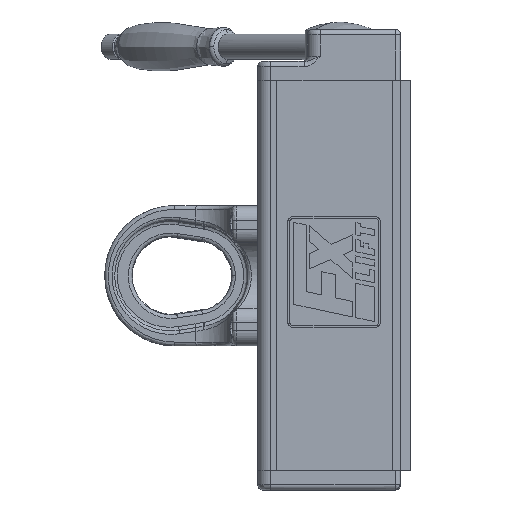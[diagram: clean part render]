
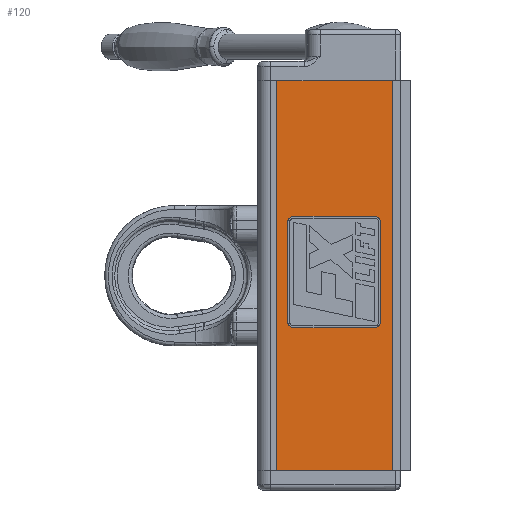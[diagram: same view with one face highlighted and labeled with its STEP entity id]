
A CAD part, left-side view. The second image highlights one B-rep face of the part: STEP entity #120.
In plain terms, the highlighted planar face has unit normal (-1, 0, 0).
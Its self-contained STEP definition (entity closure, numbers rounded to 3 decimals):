
#120=ADVANCED_FACE('NONE',(#973,#974),#975,.F.);
#973=FACE_OUTER_BOUND('',#3125,.T.);
#974=FACE_BOUND('',#3126,.T.);
#975=PLANE('',#3127);
#3125=EDGE_LOOP('',(#13335,#13336,#13337,#13338));
#3126=EDGE_LOOP('',(#13339,#13340,#13341,#13342,#13343,#13344,#13345,#13346));
#3127=AXIS2_PLACEMENT_3D('',#13347,#13348,#13349);
#13335=ORIENTED_EDGE('',*,*,#18979,.T.);
#13336=ORIENTED_EDGE('',*,*,#18980,.F.);
#13337=ORIENTED_EDGE('',*,*,#18981,.F.);
#13338=ORIENTED_EDGE('',*,*,#18982,.T.);
#13339=ORIENTED_EDGE('',*,*,#18983,.T.);
#13340=ORIENTED_EDGE('',*,*,#18984,.T.);
#13341=ORIENTED_EDGE('',*,*,#18985,.T.);
#13342=ORIENTED_EDGE('',*,*,#18986,.T.);
#13343=ORIENTED_EDGE('',*,*,#18987,.T.);
#13344=ORIENTED_EDGE('',*,*,#18988,.T.);
#13345=ORIENTED_EDGE('',*,*,#18989,.T.);
#13346=ORIENTED_EDGE('',*,*,#18990,.T.);
#13347=CARTESIAN_POINT('',(-74.5,0.,153.0));
#13348=DIRECTION('',(1.0,0.,0.));
#13349=DIRECTION('',(0.0,1.0,0.));
#18979=EDGE_CURVE('NONE',#21266,#21267,#21268,.T.);
#18980=EDGE_CURVE('NONE',#21269,#21267,#21270,.T.);
#18981=EDGE_CURVE('NONE',#21271,#21269,#21272,.T.);
#18982=EDGE_CURVE('NONE',#21271,#21266,#21273,.T.);
#18983=EDGE_CURVE('NONE',#21274,#21275,#21276,.T.);
#18984=EDGE_CURVE('NONE',#21275,#21277,#21278,.T.);
#18985=EDGE_CURVE('NONE',#21277,#21279,#21280,.T.);
#18986=EDGE_CURVE('NONE',#21279,#21281,#21282,.T.);
#18987=EDGE_CURVE('NONE',#21281,#21283,#21284,.T.);
#18988=EDGE_CURVE('NONE',#21283,#21285,#21286,.T.);
#18989=EDGE_CURVE('NONE',#21285,#21287,#21288,.T.);
#18990=EDGE_CURVE('NONE',#21287,#21274,#21289,.T.);
#21266=VERTEX_POINT('NONE',#26115);
#21267=VERTEX_POINT('NONE',#26116);
#21268=LINE('',#26117,#26118);
#21269=VERTEX_POINT('NONE',#26119);
#21270=LINE('',#26120,#26121);
#21271=VERTEX_POINT('NONE',#26122);
#21272=LINE('',#26123,#26124);
#21273=LINE('',#26125,#26126);
#21274=VERTEX_POINT('NONE',#26127);
#21275=VERTEX_POINT('NONE',#26128);
#21276=B_SPLINE_CURVE_WITH_KNOTS('',3,(#26129,#26130,#26131,#26132),.UNSPECIFIED.,.F.,.F.,(4,4),(0.778,1.0),.UNSPECIFIED.);
#21277=VERTEX_POINT('NONE',#26133);
#21278=LINE('',#26134,#26135);
#21279=VERTEX_POINT('NONE',#26136);
#21280=B_SPLINE_CURVE_WITH_KNOTS('',3,(#26137,#26138,#26139,#26140),.UNSPECIFIED.,.F.,.F.,(4,4),(0.111,0.222),.UNSPECIFIED.);
#21281=VERTEX_POINT('NONE',#26141);
#21282=LINE('',#26142,#26143);
#21283=VERTEX_POINT('NONE',#26144);
#21284=B_SPLINE_CURVE_WITH_KNOTS('',3,(#26145,#26146,#26147,#26148),.UNSPECIFIED.,.F.,.F.,(4,4),(0.333,0.444),.UNSPECIFIED.);
#21285=VERTEX_POINT('NONE',#26149);
#21286=LINE('',#26150,#26151);
#21287=VERTEX_POINT('NONE',#26152);
#21288=B_SPLINE_CURVE_WITH_KNOTS('',3,(#26153,#26154,#26155,#26156),.UNSPECIFIED.,.F.,.F.,(4,4),(0.556,0.667),.UNSPECIFIED.);
#21289=LINE('',#26157,#26158);
#26115=CARTESIAN_POINT('',(-74.5,49.0,-153.0));
#26116=CARTESIAN_POINT('',(-74.5,-42.5,-153.0));
#26117=CARTESIAN_POINT('',(-74.5,0.,-153.0));
#26118=VECTOR('',#35993,1000.0);
#26119=CARTESIAN_POINT('',(-74.5,-42.5,153.0));
#26120=CARTESIAN_POINT('',(-74.5,-42.5,153.0));
#26121=VECTOR('',#35994,1000.0);
#26122=CARTESIAN_POINT('',(-74.5,49.0,153.0));
#26123=CARTESIAN_POINT('',(-74.5,0.,153.0));
#26124=VECTOR('',#35995,1000.0);
#26125=CARTESIAN_POINT('',(-74.5,49.0,153.0));
#26126=VECTOR('',#35996,1000.0);
#26127=CARTESIAN_POINT('',(-74.5,35.673,-40.81));
#26128=CARTESIAN_POINT('',(-74.5,40.531,-35.952));
#26129=CARTESIAN_POINT('',(-74.5,35.673,-40.81));
#26130=CARTESIAN_POINT('',(-74.5,38.345,-40.81));
#26131=CARTESIAN_POINT('',(-74.5,40.531,-38.624));
#26132=CARTESIAN_POINT('',(-74.5,40.531,-35.952));
#26133=CARTESIAN_POINT('',(-74.5,40.531,41.772));
#26134=CARTESIAN_POINT('',(-74.5,40.531,0.));
#26135=VECTOR('',#35997,1000.0);
#26136=CARTESIAN_POINT('',(-74.5,35.673,46.63));
#26137=CARTESIAN_POINT('',(-74.5,40.531,41.772));
#26138=CARTESIAN_POINT('',(-74.5,40.531,44.444));
#26139=CARTESIAN_POINT('',(-74.5,38.345,46.63));
#26140=CARTESIAN_POINT('',(-74.5,35.673,46.63));
#26141=CARTESIAN_POINT('',(-74.5,-27.478,46.63));
#26142=CARTESIAN_POINT('',(-74.5,0.,46.63));
#26143=VECTOR('',#35998,1000.0);
#26144=CARTESIAN_POINT('',(-74.5,-32.336,41.772));
#26145=CARTESIAN_POINT('',(-74.5,-27.478,46.63));
#26146=CARTESIAN_POINT('',(-74.5,-30.15,46.63));
#26147=CARTESIAN_POINT('',(-74.5,-32.336,44.444));
#26148=CARTESIAN_POINT('',(-74.5,-32.336,41.772));
#26149=CARTESIAN_POINT('',(-74.5,-32.336,-35.952));
#26150=CARTESIAN_POINT('',(-74.5,-32.336,0.));
#26151=VECTOR('',#35999,1000.0);
#26152=CARTESIAN_POINT('',(-74.5,-27.478,-40.81));
#26153=CARTESIAN_POINT('',(-74.5,-32.336,-35.952));
#26154=CARTESIAN_POINT('',(-74.5,-32.336,-38.624));
#26155=CARTESIAN_POINT('',(-74.5,-30.15,-40.81));
#26156=CARTESIAN_POINT('',(-74.5,-27.478,-40.81));
#26157=CARTESIAN_POINT('',(-74.5,0.,-40.81));
#26158=VECTOR('',#36000,1000.0);
#35993=DIRECTION('',(0.,-1.0,0.0));
#35994=DIRECTION('',(-0.0,-0.0,-1.0));
#35995=DIRECTION('',(0.,-1.0,0.0));
#35996=DIRECTION('',(-0.0,-0.0,-1.0));
#35997=DIRECTION('',(0.,0.,1.0));
#35998=DIRECTION('',(0.,-1.0,0.0));
#35999=DIRECTION('',(0.,0.,-1.0));
#36000=DIRECTION('',(0.,1.0,0.0));
